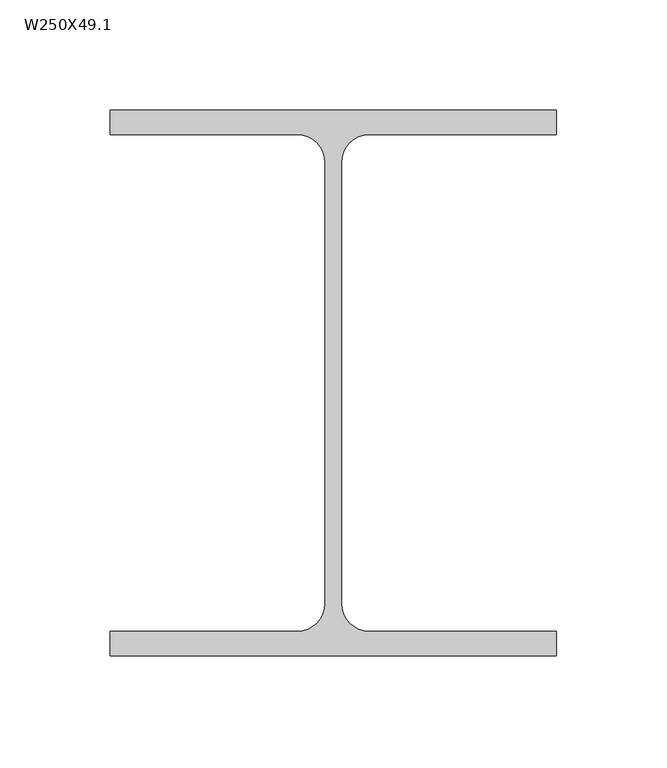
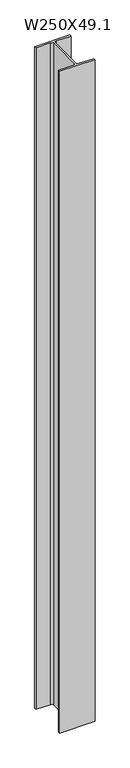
"""IFC4 building model written with IfcOpenShell, lengths in millimetres: column geometry, M_W Формы-Колонна : W250X49.1."""

from ifc_helpers import new_model, si_unit, point, frame_2d, origin, origin_with_axes, place, context, project, spatial, polyline, circle_curve, trimmed, segment, composite_curve, outline, extrude, source, transform, mapped, element, save


def w250x49_1_79517764(model_context):
    return source(origin(), model_context, "Body", "SweptSolid", [
        extrude(outline(composite_curve([segment(polyline([(101.0, 123.5), (101.0, 112.5), (16.385, 112.5)]), True, "CONTINUOUS"), segment(trimmed(circle_curve(frame_2d((16.385, 99.8)), 12.7), [point((16.385, 112.5))], [point((3.685, 99.8))], True, "CARTESIAN"), True, "CONTINUOUS"), segment(polyline([(3.685, 99.8), (3.685, -99.8)]), True, "CONTINUOUS"), segment(trimmed(circle_curve(frame_2d((16.385, -99.8)), 12.7), [point((3.685, -99.8))], [point((16.385, -112.5))], True, "CARTESIAN"), True, "CONTINUOUS"), segment(polyline([(16.385, -112.5), (101.0, -112.5), (101.0, -123.5), (-101.0, -123.5), (-101.0, -112.5), (-16.385, -112.5)]), True, "CONTINUOUS"), segment(trimmed(circle_curve(frame_2d((-16.385, -99.8)), 12.7), [point((-16.385, -112.5))], [point((-3.685, -99.8))], True, "CARTESIAN"), True, "CONTINUOUS"), segment(polyline([(-3.685, -99.8), (-3.685, 99.8)]), True, "CONTINUOUS"), segment(trimmed(circle_curve(frame_2d((-16.385, 99.8)), 12.7), [point((-3.685, 99.8))], [point((-16.385, 112.5))], True, "CARTESIAN"), True, "CONTINUOUS"), segment(polyline([(-16.385, 112.5), (-101.0, 112.5), (-101.0, 123.5), (101.0, 123.5)]), True, "CONTINUOUS")], self_intersect=False)), origin_with_axes(), (0.0, 0.0, 1.0), 4000.0),
    ])


if __name__ == "__main__":
    model = new_model("IFC4")
    model_context = context("Model", 3, world=origin())
    ifc_project = project(units=[si_unit("LENGTHUNIT", "METRE", prefix="MILLI")], contexts=[model_context])
    site = spatial("IfcSite", under=ifc_project)
    building = spatial("IfcBuilding", under=site)
    placement = place(None, origin())
    w250x49_1_shape = w250x49_1_79517764(model_context)
    element("IfcColumn", 1, ObjectType="M_W Формы-Колонна : W250X49.1", at=placement, inside=building, context=model_context, shape_type="MappedRepresentation", body=[
        mapped(w250x49_1_shape, transform((0.0, 0.0, 0.0), x_axis=(1.0, 0.0, 0.0), y_axis=(0.0, 1.0, 0.0), z_axis=(0.0, 0.0, 1.0))),
    ])
    save(model, "model.ifc")
